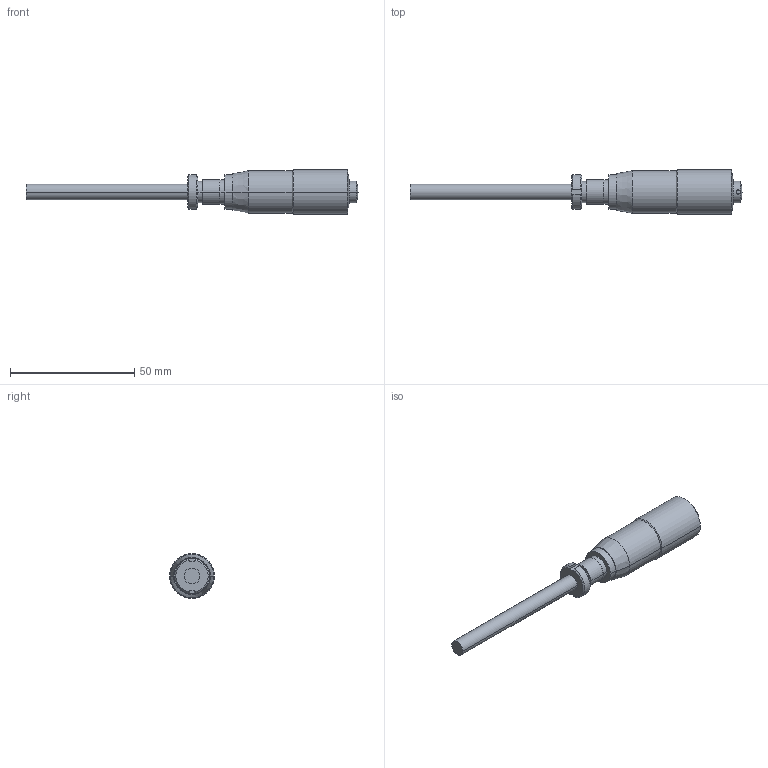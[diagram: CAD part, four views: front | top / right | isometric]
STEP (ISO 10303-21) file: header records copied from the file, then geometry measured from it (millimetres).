
FILE_DESCRIPTION(('Creo Elements/Direct Modeling STEP Export'),'2;1');
FILE_NAME('150-220_MHN2-25HT.stp','2014-11-17T15:33:25',(''),(''),'Creo Elements/Direct Modeling STEP processor for AP214 (Solid Model)','Creo Elements/Direct Modeling 18.1B 29-Sep-2012 (C) Parametric Technology GmbH','');
FILE_SCHEMA(('AUTOMOTIVE_DESIGN { 1 0 10303 214 1 1 1 1 }'));
Length unit declared in the file: millimetre
Products named in the file (2): 150-220_MHN2-25HT.prt; 150-220_MHN2-25HT.stp
Assembly tree (1 placements, depth 2):
  150-220_MHN2-25HT.stp
    150-220_MHN2-25HT.prt
Bounding box: 133.5 x 18 x 18 mm (x, y, z)
Volume: 15243.5 mm3; surface area: 5180.7 mm2
Topology: 1 solids, 1 shells, 47 faces, 105 edges, 65 vertices
Faces by surface type: cylinder 20, plane 15, cone 10, sphere 2
Entity records: 1306 total; most frequent: CARTESIAN_POINT 274, ORIENTED_EDGE 206, DIRECTION 202, EDGE_CURVE 103, AXIS2_PLACEMENT_3D 79, VERTEX_POINT 65, EDGE_LOOP 54, FACE_OUTER_BOUND 47
